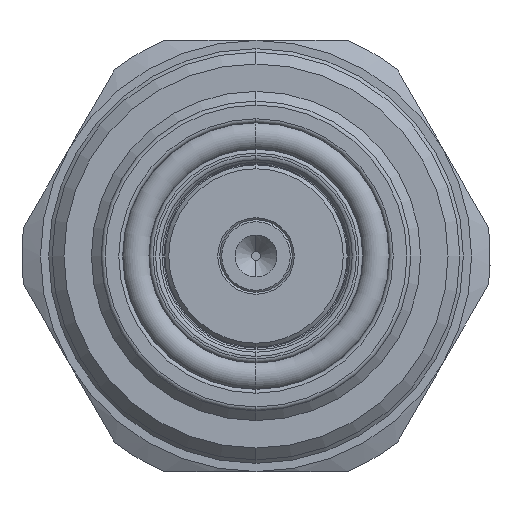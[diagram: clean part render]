
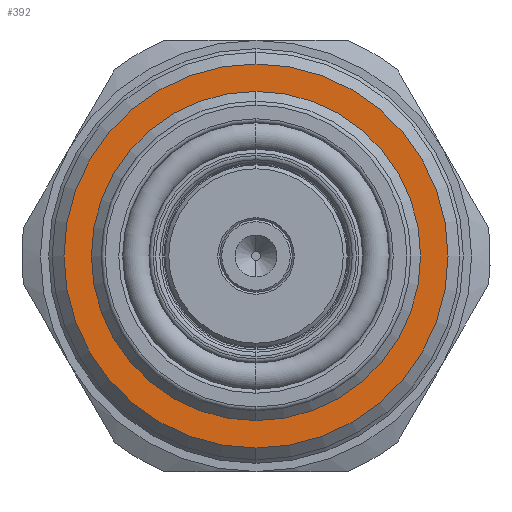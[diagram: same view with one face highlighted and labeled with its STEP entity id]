
A CAD part, left-side view. The second image highlights one B-rep face of the part: STEP entity #392.
In plain terms, the highlighted planar face has unit normal (-1, 0, 0).
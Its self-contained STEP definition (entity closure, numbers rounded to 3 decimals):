
#91 = AXIS2_PLACEMENT_3D ( 'NONE', #1323, #1328, #1360 ) ;
#94 = AXIS2_PLACEMENT_3D ( 'NONE', #1325, #1302, #1308 ) ;
#98 = AXIS2_PLACEMENT_3D ( 'NONE', #1344, #1340, #1329 ) ;
#114 = AXIS2_PLACEMENT_3D ( 'NONE', #1318, #1314, #1298 ) ;
#392 = ADVANCED_FACE ( 'NONE', ( #3220, #3266 ), #2070, .F. ) ;
#1298 = DIRECTION ( 'NONE',  ( 0., 0., 1. ) ) ;
#1302 = DIRECTION ( 'NONE',  ( -1., 0., 0. ) ) ;
#1308 = DIRECTION ( 'NONE',  ( 0., 0., 1. ) ) ;
#1314 = DIRECTION ( 'NONE',  ( -1., 0., 0. ) ) ;
#1318 = CARTESIAN_POINT ( 'NONE',  ( -2.883, 0., 0. ) ) ;
#1323 = CARTESIAN_POINT ( 'NONE',  ( -2.883, 0., 0. ) ) ;
#1325 = CARTESIAN_POINT ( 'NONE',  ( -2.883, 0., 0. ) ) ;
#1328 = DIRECTION ( 'NONE',  ( -1., 0., 0. ) ) ;
#1329 = DIRECTION ( 'NONE',  ( 0., 0., 1. ) ) ;
#1340 = DIRECTION ( 'NONE',  ( -1., 0., 0. ) ) ;
#1344 = CARTESIAN_POINT ( 'NONE',  ( -2.883, 0., 0. ) ) ;
#1360 = DIRECTION ( 'NONE',  ( 0., 0., 1. ) ) ;
#2031 = DIRECTION ( 'NONE',  ( 0., 0., -1. ) ) ;
#2050 = CARTESIAN_POINT ( 'NONE',  ( -2.883, 0., 0. ) ) ;
#2058 = DIRECTION ( 'NONE',  ( 1., 0., 0. ) ) ;
#2070 = PLANE ( 'NONE',  #4022 ) ;
#2369 = EDGE_CURVE ( 'NONE', #5025, #5094, #3545, .T. ) ;
#2373 = EDGE_CURVE ( 'NONE', #5086, #5091, #3536, .T. ) ;
#2374 = EDGE_CURVE ( 'NONE', #5094, #5025, #3554, .T. ) ;
#2376 = EDGE_CURVE ( 'NONE', #5091, #5086, #3588, .T. ) ;
#2673 = CARTESIAN_POINT ( 'NONE',  ( -2.883, 0., -8.4 ) ) ;
#2704 = CARTESIAN_POINT ( 'NONE',  ( -2.883, 0., -9.8 ) ) ;
#2730 = CARTESIAN_POINT ( 'NONE',  ( -2.883, 0., 9.8 ) ) ;
#2733 = CARTESIAN_POINT ( 'NONE',  ( -2.883, 0., 8.4 ) ) ;
#3220 = FACE_BOUND ( 'NONE', #4582, .T. ) ;
#3266 = FACE_OUTER_BOUND ( 'NONE', #4611, .T. ) ;
#3536 = CIRCLE ( 'NONE', #94, 9.8 ) ;
#3545 = CIRCLE ( 'NONE', #114, 8.4 ) ;
#3554 = CIRCLE ( 'NONE', #91, 8.4 ) ;
#3588 = CIRCLE ( 'NONE', #98, 9.8 ) ;
#4022 = AXIS2_PLACEMENT_3D ( 'NONE', #2050, #2058, #2031 ) ;
#4477 = ORIENTED_EDGE ( 'NONE', *, *, #2373, .T. ) ;
#4480 = ORIENTED_EDGE ( 'NONE', *, *, #2374, .F. ) ;
#4496 = ORIENTED_EDGE ( 'NONE', *, *, #2376, .T. ) ;
#4508 = ORIENTED_EDGE ( 'NONE', *, *, #2369, .F. ) ;
#4582 = EDGE_LOOP ( 'NONE', ( #4508, #4480 ) ) ;
#4611 = EDGE_LOOP ( 'NONE', ( #4477, #4496 ) ) ;
#5025 = VERTEX_POINT ( 'NONE', #2673 ) ;
#5086 = VERTEX_POINT ( 'NONE', #2704 ) ;
#5091 = VERTEX_POINT ( 'NONE', #2730 ) ;
#5094 = VERTEX_POINT ( 'NONE', #2733 ) ;
